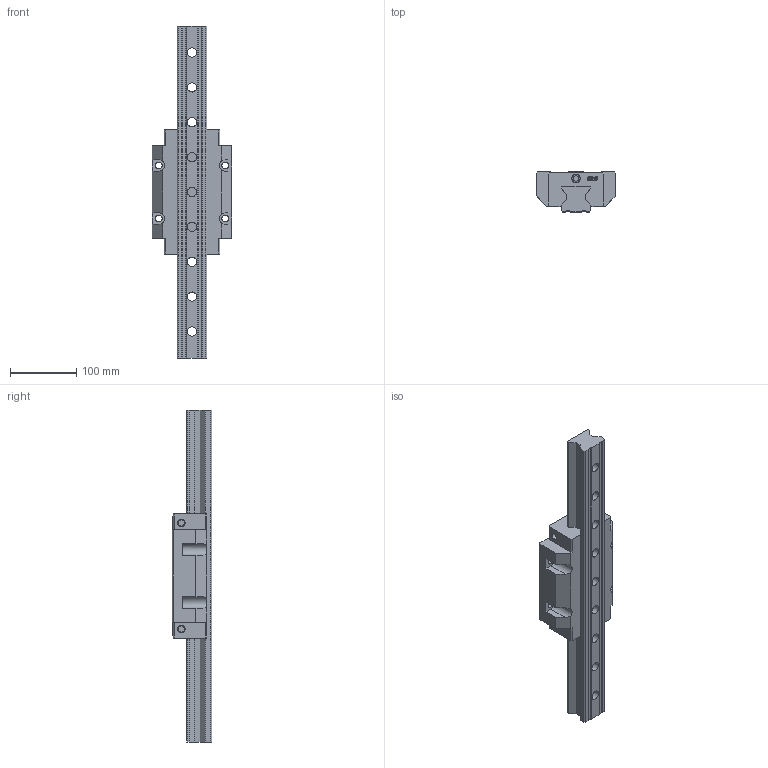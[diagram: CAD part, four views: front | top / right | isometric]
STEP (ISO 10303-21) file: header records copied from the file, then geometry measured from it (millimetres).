
FILE_DESCRIPTION(/* description */ (''),/* implementation_level */ '2;1');
FILE_NAME(/* name */ 'SRW45HC.stp',/* time_stamp */ '2022-01-22T15:26:07+08:00',/* author */ (''),/* organization */ (''),/* preprocessor_version */ 'ST-DEVELOPER v15',/* originating_system */ 'SIEMENS PLM Software NX 8.5',/* authorisation */ '');
FILE_SCHEMA (('CONFIG_CONTROL_DESIGN'));
Length unit declared in the file: millimetre
Products named in the file (1): _model1
Bounding box: 120 x 60 x 500 mm (x, y, z)
Volume: 1414410.4 mm3; surface area: 195719.2 mm2
Topology: 2 solids, 2 shells, 258 faces, 704 edges, 473 vertices
Faces by surface type: plane 157, extrusion 55, cylinder 36, cone 10
Full cylindrical faces by diameter (mm): 8.5 x2, 9.349 x4, 10.25 x6, 12.5 x2, 14 x9, 20 x9
Entity records: 8508 total; most frequent: CARTESIAN_POINT 2119, ORIENTED_EDGE 1314, DIRECTION 1120, EDGE_CURVE 657, VECTOR 492, VERTEX_POINT 468, LINE 437, EDGE_LOOP 353
